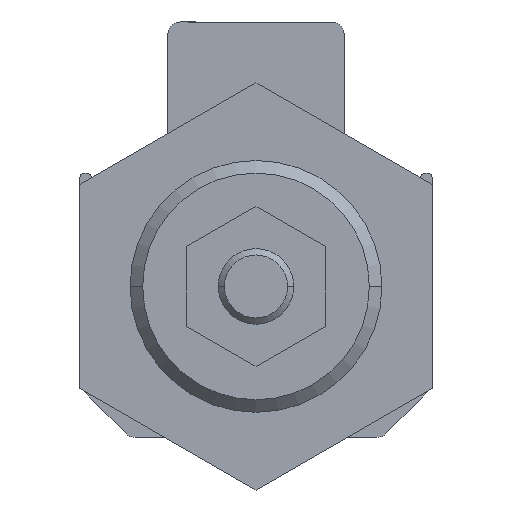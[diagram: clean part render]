
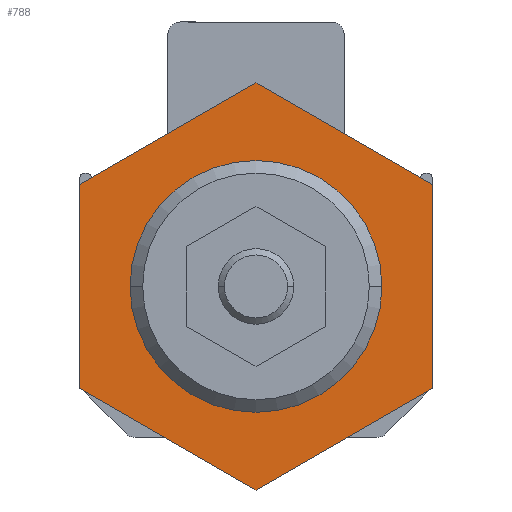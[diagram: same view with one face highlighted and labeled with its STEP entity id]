
A CAD part, front view. The second image highlights one B-rep face of the part: STEP entity #788.
In plain terms, the highlighted planar face has unit normal (0, -1, 0).
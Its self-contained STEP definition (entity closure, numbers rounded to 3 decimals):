
#306=CARTESIAN_POINT('',(-5.0,-36.5,6.));
#307=VERTEX_POINT('',#306);
#316=CARTESIAN_POINT('',(5.0,-36.5,6.));
#317=VERTEX_POINT('',#316);
#318=CARTESIAN_POINT('',(0.0,-36.5,6.));
#319=DIRECTION('',(0.0,-1.0,0.0));
#320=DIRECTION('',(-1.0,0.0,0.0));
#321=AXIS2_PLACEMENT_3D('',#318,#319,#320);
#322=CIRCLE('',#321,5.0);
#323=EDGE_CURVE('',#307,#317,#322,.T.);
#723=CARTESIAN_POINT('',(0.,-36.5,6.));
#724=DIRECTION('',(0.0,1.0,0.0));
#725=DIRECTION('',(0.0,0.0,1.0));
#726=AXIS2_PLACEMENT_3D('',#723,#724,#725);
#727=PLANE('',#726);
#728=CARTESIAN_POINT('',(7.,-36.5,1.959));
#729=VERTEX_POINT('',#728);
#730=CARTESIAN_POINT('',(0.,-36.5,-2.083));
#731=VERTEX_POINT('',#730);
#732=CARTESIAN_POINT('',(7.,-36.5,1.959));
#733=DIRECTION('',(-0.866,0.0,-0.5));
#734=VECTOR('',#733,8.083);
#735=LINE('',#732,#734);
#736=EDGE_CURVE('',#729,#731,#735,.T.);
#737=ORIENTED_EDGE('',*,*,#736,.F.);
#738=CARTESIAN_POINT('',(7.,-36.5,10.041));
#739=VERTEX_POINT('',#738);
#740=CARTESIAN_POINT('',(7.,-36.5,10.041));
#741=DIRECTION('',(0.0,0.0,-1.0));
#742=VECTOR('',#741,8.083);
#743=LINE('',#740,#742);
#744=EDGE_CURVE('',#739,#729,#743,.T.);
#745=ORIENTED_EDGE('',*,*,#744,.F.);
#746=CARTESIAN_POINT('',(0.,-36.5,14.083));
#747=VERTEX_POINT('',#746);
#748=CARTESIAN_POINT('',(0.,-36.5,14.083));
#749=DIRECTION('',(0.866,0.0,-0.5));
#750=VECTOR('',#749,8.083);
#751=LINE('',#748,#750);
#752=EDGE_CURVE('',#747,#739,#751,.T.);
#753=ORIENTED_EDGE('',*,*,#752,.F.);
#754=CARTESIAN_POINT('',(-7.,-36.5,10.041));
#755=VERTEX_POINT('',#754);
#756=CARTESIAN_POINT('',(-7.,-36.5,10.041));
#757=DIRECTION('',(0.866,0.0,0.5));
#758=VECTOR('',#757,8.083);
#759=LINE('',#756,#758);
#760=EDGE_CURVE('',#755,#747,#759,.T.);
#761=ORIENTED_EDGE('',*,*,#760,.F.);
#762=CARTESIAN_POINT('',(-7.,-36.5,1.959));
#763=VERTEX_POINT('',#762);
#764=CARTESIAN_POINT('',(-7.,-36.5,1.959));
#765=DIRECTION('',(0.0,0.0,1.0));
#766=VECTOR('',#765,8.083);
#767=LINE('',#764,#766);
#768=EDGE_CURVE('',#763,#755,#767,.T.);
#769=ORIENTED_EDGE('',*,*,#768,.F.);
#770=CARTESIAN_POINT('',(0.,-36.5,-2.083));
#771=DIRECTION('',(-0.866,0.0,0.5));
#772=VECTOR('',#771,8.083);
#773=LINE('',#770,#772);
#774=EDGE_CURVE('',#731,#763,#773,.T.);
#775=ORIENTED_EDGE('',*,*,#774,.F.);
#776=EDGE_LOOP('',(#737,#745,#753,#761,#769,#775));
#777=FACE_OUTER_BOUND('',#776,.T.);
#778=CARTESIAN_POINT('',(0.0,-36.5,6.));
#779=DIRECTION('',(0.0,-1.0,0.0));
#780=DIRECTION('',(-1.0,0.0,0.0));
#781=AXIS2_PLACEMENT_3D('',#778,#779,#780);
#782=CIRCLE('',#781,5.0);
#783=EDGE_CURVE('',#317,#307,#782,.T.);
#784=ORIENTED_EDGE('',*,*,#783,.F.);
#785=ORIENTED_EDGE('',*,*,#323,.F.);
#786=EDGE_LOOP('',(#784,#785));
#787=FACE_BOUND('',#786,.T.);
#788=ADVANCED_FACE('',(#777,#787),#727,.F.);
